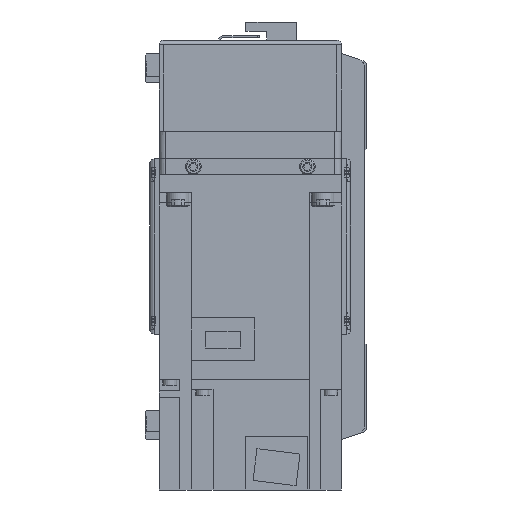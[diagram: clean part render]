
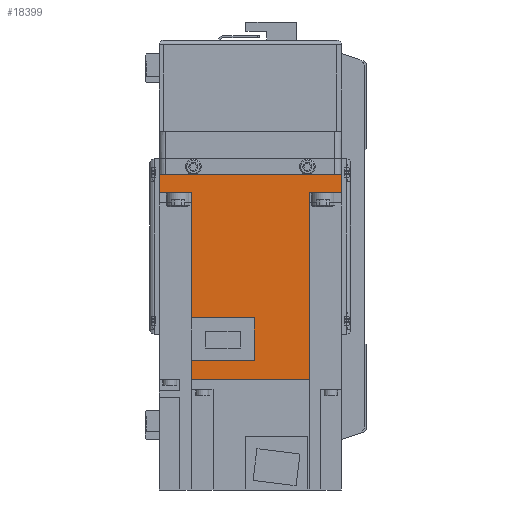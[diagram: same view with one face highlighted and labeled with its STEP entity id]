
A CAD part, left-side view. The second image highlights one B-rep face of the part: STEP entity #18399.
In plain terms, the highlighted planar face has unit normal (-1, 0, 0) as drawn and (1, 0, 0) by its records, which use the part's own axes.
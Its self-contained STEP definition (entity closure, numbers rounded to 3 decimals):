
#2047=ORIENTED_EDGE('',*,*,#7095,.F.);
#2048=ORIENTED_EDGE('',*,*,#7096,.F.);
#2049=ORIENTED_EDGE('',*,*,#7097,.F.);
#2050=ORIENTED_EDGE('',*,*,#7098,.T.);
#2051=ORIENTED_EDGE('',*,*,#7099,.F.);
#2052=ORIENTED_EDGE('',*,*,#7100,.T.);
#2053=ORIENTED_EDGE('',*,*,#7101,.T.);
#2054=ORIENTED_EDGE('',*,*,#7102,.F.);
#2055=ORIENTED_EDGE('',*,*,#7103,.F.);
#2056=ORIENTED_EDGE('',*,*,#7104,.F.);
#2057=ORIENTED_EDGE('',*,*,#7105,.F.);
#2058=ORIENTED_EDGE('',*,*,#7106,.F.);
#7095=EDGE_CURVE('',#9679,#9680,#11509,.T.);
#7096=EDGE_CURVE('',#9681,#9679,#11510,.T.);
#7097=EDGE_CURVE('',#9682,#9681,#11511,.T.);
#7098=EDGE_CURVE('',#9682,#9683,#11512,.T.);
#7099=EDGE_CURVE('',#9684,#9683,#11513,.T.);
#7100=EDGE_CURVE('',#9684,#9685,#11514,.T.);
#7101=EDGE_CURVE('',#9685,#9686,#11515,.T.);
#7102=EDGE_CURVE('',#9687,#9686,#11516,.T.);
#7103=EDGE_CURVE('',#9688,#9687,#11517,.T.);
#7104=EDGE_CURVE('',#9689,#9688,#11518,.T.);
#7105=EDGE_CURVE('',#9690,#9689,#11519,.T.);
#7106=EDGE_CURVE('',#9680,#9690,#11520,.T.);
#9679=VERTEX_POINT('',#27712);
#9680=VERTEX_POINT('',#27713);
#9681=VERTEX_POINT('',#27715);
#9682=VERTEX_POINT('',#27717);
#9683=VERTEX_POINT('',#27719);
#9684=VERTEX_POINT('',#27721);
#9685=VERTEX_POINT('',#27723);
#9686=VERTEX_POINT('',#27725);
#9687=VERTEX_POINT('',#27727);
#9688=VERTEX_POINT('',#27729);
#9689=VERTEX_POINT('',#27731);
#9690=VERTEX_POINT('',#27733);
#11509=LINE('',#27711,#13185);
#11510=LINE('',#27714,#13186);
#11511=LINE('',#27716,#13187);
#11512=LINE('',#27718,#13188);
#11513=LINE('',#27720,#13189);
#11514=LINE('',#27722,#13190);
#11515=LINE('',#27724,#13191);
#11516=LINE('',#27726,#13192);
#11517=LINE('',#27728,#13193);
#11518=LINE('',#27730,#13194);
#11519=LINE('',#27732,#13195);
#11520=LINE('',#27734,#13196);
#13185=VECTOR('',#22089,1000.);
#13186=VECTOR('',#22090,1000.);
#13187=VECTOR('',#22091,1000.);
#13188=VECTOR('',#22092,1000.);
#13189=VECTOR('',#22093,1000.);
#13190=VECTOR('',#22094,1000.);
#13191=VECTOR('',#22095,1000.);
#13192=VECTOR('',#22096,1000.);
#13193=VECTOR('',#22097,1000.);
#13194=VECTOR('',#22098,1000.);
#13195=VECTOR('',#22099,1000.);
#13196=VECTOR('',#22100,1000.);
#14853=EDGE_LOOP('',(#2047,#2048,#2049,#2050,#2051,#2052,#2053,#2054,#2055,
#2056,#2057,#2058));
#16315=FACE_BOUND('',#14853,.T.);
#17670=PLANE('',#19677);
#18399=ADVANCED_FACE('',(#16315),#17670,.F.);
#19677=AXIS2_PLACEMENT_3D('',#27710,#22087,#22088);
#22087=DIRECTION('',(-1.,0.,0.));
#22088=DIRECTION('',(0.,0.,1.));
#22089=DIRECTION('',(0.,0.,1.));
#22090=DIRECTION('',(0.,-1.,0.));
#22091=DIRECTION('',(0.,0.,-1.));
#22092=DIRECTION('',(0.,-1.,0.));
#22093=DIRECTION('',(0.,0.,-1.));
#22094=DIRECTION('',(0.,-1.,0.));
#22095=DIRECTION('',(0.,0.,-1.));
#22096=DIRECTION('',(0.,-1.,0.));
#22097=DIRECTION('',(0.,0.,-1.));
#22098=DIRECTION('',(0.,-1.,0.));
#22099=DIRECTION('',(0.,0.,-1.));
#22100=DIRECTION('',(0.,-1.,0.));
#27710=CARTESIAN_POINT('',(40.,89.8,40.));
#27711=CARTESIAN_POINT('',(40.,81.4,-26.));
#27712=CARTESIAN_POINT('',(40.,81.4,-25.95));
#27713=CARTESIAN_POINT('',(40.,81.4,1.8));
#27714=CARTESIAN_POINT('',(40.,158.,-25.95));
#27715=CARTESIAN_POINT('',(40.,89.8,-25.95));
#27716=CARTESIAN_POINT('',(40.,89.8,40.));
#27717=CARTESIAN_POINT('',(40.,89.8,25.95));
#27718=CARTESIAN_POINT('',(40.,158.,25.95));
#27719=CARTESIAN_POINT('',(40.,8.,25.95));
#27720=CARTESIAN_POINT('',(40.,8.,40.));
#27721=CARTESIAN_POINT('',(40.,8.,40.));
#27722=CARTESIAN_POINT('',(40.,89.8,40.));
#27723=CARTESIAN_POINT('',(40.,0.,40.));
#27724=CARTESIAN_POINT('',(40.,0.,40.));
#27725=CARTESIAN_POINT('',(40.,0.,-40.));
#27726=CARTESIAN_POINT('',(40.,89.8,-40.));
#27727=CARTESIAN_POINT('',(40.,8.,-40.));
#27728=CARTESIAN_POINT('',(40.,8.,40.));
#27729=CARTESIAN_POINT('',(40.,8.,-25.95));
#27730=CARTESIAN_POINT('',(40.,158.,-25.95));
#27731=CARTESIAN_POINT('',(40.,62.8,-25.95));
#27732=CARTESIAN_POINT('',(40.,62.8,1.8));
#27733=CARTESIAN_POINT('',(40.,62.8,1.8));
#27734=CARTESIAN_POINT('',(40.,81.4,1.8));
